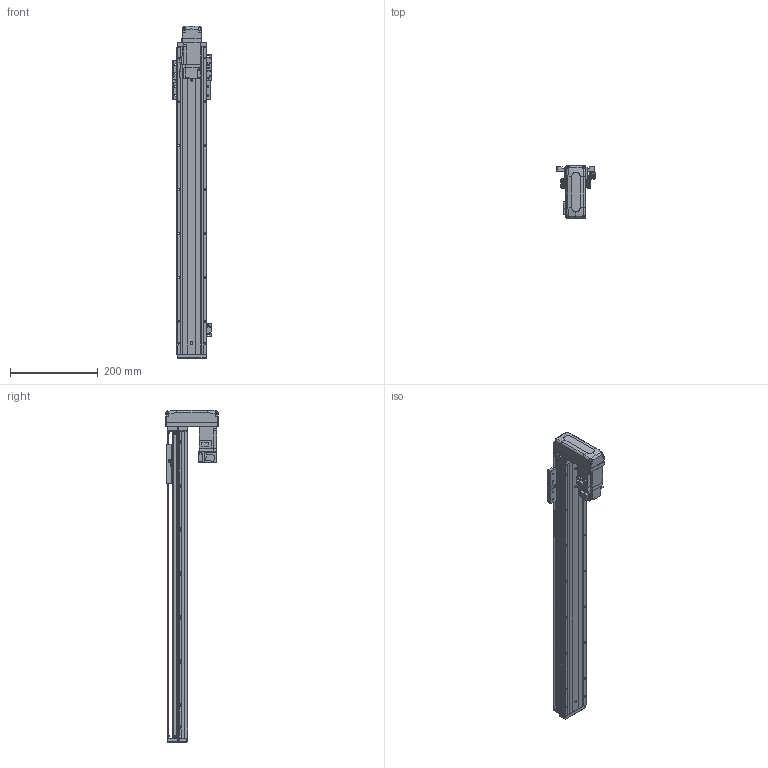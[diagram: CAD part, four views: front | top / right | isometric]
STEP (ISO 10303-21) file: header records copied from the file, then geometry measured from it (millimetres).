
FILE_DESCRIPTION (( 'STEP AP203' ), '1' );
FILE_NAME ('KTHAL60-550-BM-M10-C4L.step', '2022-03-19T08:41:39', ( '微软用户' ), ( '微软中国' ), 'SwSTEP 2.0', 'SolidWorks 2020', '' );
FILE_SCHEMA (( 'CONFIG_CONTROL_DESIGN' ));
Length unit declared in the file: millimetre
Products named in the file (18): GBT 70.1-M3×15; KTHA60-005; GBT77-2000M3-3; KTHAL60-550-BM-M10-C4L; GB¨uT 70.2-M3¡Á5_M3¡Á6; GBT 70.1-M3℅6; GBT 70.3-M3℅6; CTHA60-016; EE_SX911P_R; HG-KR13（三菱）; KTHA60-001_700; CTHA60-017; CTHA60-015-2_CTHA60-015-2; KTHLA60-002; CTHA60-021; CTHA60-033; KTHA60-004; GBT 70.1-M4×16
Assembly tree (51 placements, depth 2):
  KTHAL60-550-BM-M10-C4L
    KTHA60-001_700
    KTHLA60-002
    KTHA60-004
    KTHA60-005
    GB¨uT 70.2-M3¡Á5_M3¡Á6  x5
    GBT 70.3-M3℅6  x4
    EE_SX911P_R  x3
    CTHA60-017  x3
    CTHA60-021  x2
    GBT 70.1-M4×16  x10
    GBT77-2000M3-3  x6
    GBT 70.1-M3℅6  x6
    CTHA60-016
    HG-KR13（三菱）
    CTHA60-015-2_CTHA60-015-2
    CTHA60-033
    GBT 70.1-M3×15  x4
Bounding box: 87.82 x 120 x 757 mm (x, y, z)
Volume: 1616142.4 mm3; surface area: 399440.5 mm2
Topology: 54 solids, 54 shells, 2315 faces, 5499 edges, 3377 vertices
Faces by surface type: plane 1324, cylinder 565, cone 288, torus 98, bspline 26, sphere 14
Entity records: 40639 total; most frequent: CARTESIAN_POINT 7672, DIRECTION 6353, ORIENTED_EDGE 6142, EDGE_CURVE 3071, AXIS2_PLACEMENT_3D 2125, VECTOR 2103, LINE 2103, VERTEX_POINT 1926
